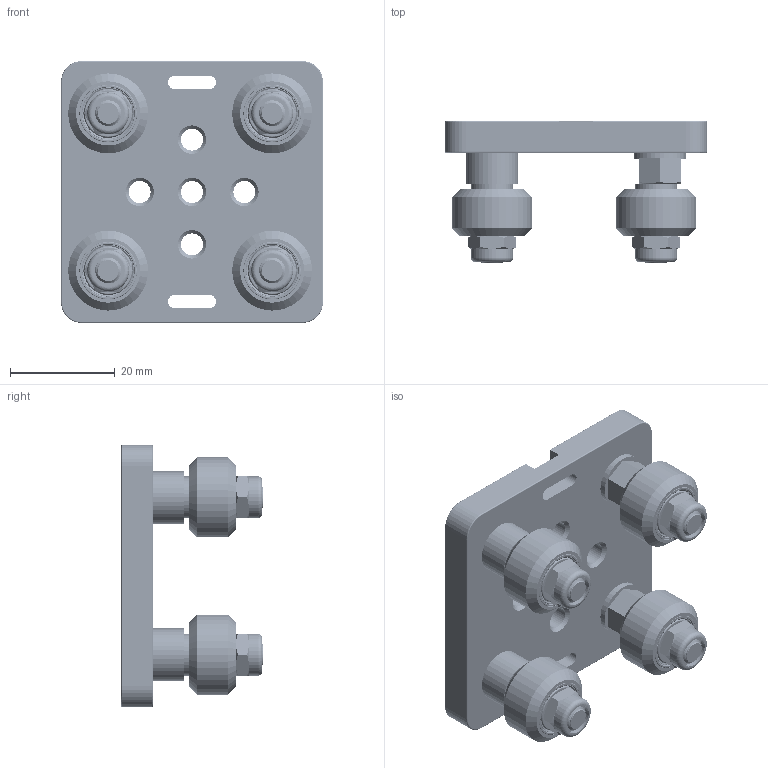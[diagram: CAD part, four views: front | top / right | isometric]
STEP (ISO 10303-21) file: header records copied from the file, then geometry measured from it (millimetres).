
FILE_DESCRIPTION (( 'STEP AP214' ), '1' );
FILE_NAME ('MVG.STEP', '2021-10-20T17:41:49', ( '' ), ( '' ), 'SwSTEP 2.0', 'SolidWorks 2020', '' );
FILE_SCHEMA (( 'AUTOMOTIVE_DESIGN' ));
Length unit declared in the file: millimetre
Products named in the file (8): MVG; MVG-P1; MVG-P2; MVG-P5; MVG-P4; MVG-P3; MVG-P7; MVG-P6
Assembly tree (21 placements, depth 2):
  MVG
    MVG-P1
    MVG-P2  x4
    MVG-P3  x2
    MVG-P4  x4
    MVG-P5  x2
    MVG-P6  x4
    MVG-P7  x4
Bounding box: 50 x 27 x 50 mm (x, y, z)
Volume: 21175 mm3; surface area: 25138.1 mm2
Topology: 129 solids, 129 shells, 3536 faces, 8900 edges, 5496 vertices
Faces by surface type: cone 1300, torus 824, cylinder 728, plane 528, sphere 144, bspline 12
Entity records: 45710 total; most frequent: CARTESIAN_POINT 12769, ORIENTED_EDGE 4664, DIRECTION 4472, EDGE_CURVE 2332, AXIS2_PLACEMENT_3D 1988, VERTEX_POINT 1443, EDGE_LOOP 1025, UNCERTAINTY_MEASURE_WITH_UNIT 1015
